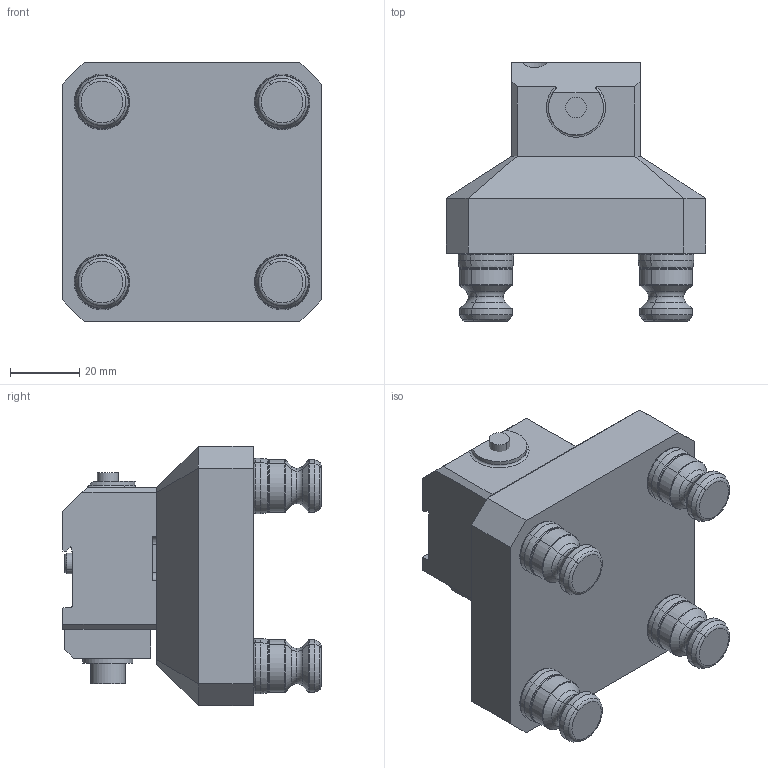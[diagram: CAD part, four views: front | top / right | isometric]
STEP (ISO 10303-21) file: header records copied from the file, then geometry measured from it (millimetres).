
FILE_DESCRIPTION (( 'STEP AP214' ), '1' );
FILE_NAME ('D_R52-DM25.STEP', '2020-03-13T18:07:50', ( '' ), ( '' ), 'SwSTEP 2.0', 'SolidWorks 2018', '' );
FILE_SCHEMA (( 'AUTOMOTIVE_DESIGN' ));
Length unit declared in the file: millimetre
Products named in the file (7): D_R52-DM25; D_DM25-3_LP6; D_DM25; D_PS16F_HARD TURN; D_R52-DM25-1; D_DM25-1; D_DM25-2
Assembly tree (9 placements, depth 3):
  D_R52-DM25
    D_R52-DM25-1
    D_PS16F_HARD TURN  x4
    D_DM25
      D_DM25-1
      D_DM25-2
      D_DM25-3_LP6
Bounding box: 75 x 74.56 x 75 mm (x, y, z)
Volume: 176756.3 mm3; surface area: 38356.1 mm2
Topology: 8 solids, 8 shells, 337 faces, 729 edges, 424 vertices
Faces by surface type: cylinder 94, plane 92, torus 89, cone 62
Entity records: 6446 total; most frequent: DIRECTION 1108, CARTESIAN_POINT 1019, ORIENTED_EDGE 938, EDGE_CURVE 469, AXIS2_PLACEMENT_3D 425, VERTEX_POINT 292, VECTOR 258, LINE 258
